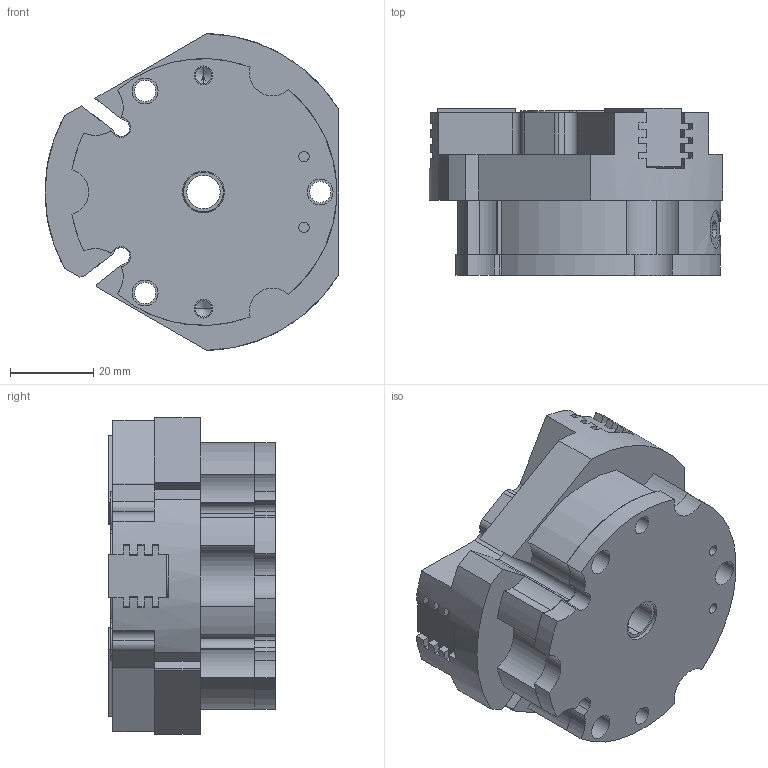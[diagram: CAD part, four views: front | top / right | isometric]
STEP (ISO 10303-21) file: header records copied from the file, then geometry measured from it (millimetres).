
FILE_DESCRIPTION (( 'STEP AP214' ), '1' );
FILE_NAME ('THB-64A-1.STEP', '2020-09-08T07:35:16', ( '' ), ( '' ), 'SwSTEP 2.0', 'SolidWorks 2016', '' );
FILE_SCHEMA (( 'AUTOMOTIVE_DESIGN' ));
Length unit declared in the file: millimetre
Products named in the file (6): THB-64A-1-02; THB-64A-1; THB-64A-1-01; THB-64A-1-05; THB-64A-1-03; THB-64A-1-04
Assembly tree (7 placements, depth 2):
  THB-64A-1
    THB-64A-1-01
    THB-64A-1-02  x3
    THB-64A-1-03
    THB-64A-1-04
    THB-64A-1-05
Bounding box: 70.5 x 40 x 75.98 mm (x, y, z)
Volume: 114822.5 mm3; surface area: 43612.2 mm2
Topology: 7 solids, 7 shells, 549 faces, 1524 edges, 985 vertices
Faces by surface type: plane 280, cylinder 215, cone 54
Entity records: 15144 total; most frequent: CARTESIAN_POINT 2666, DIRECTION 2639, ORIENTED_EDGE 2464, EDGE_CURVE 1232, AXIS2_PLACEMENT_3D 964, VERTEX_POINT 813, VECTOR 711, LINE 711
